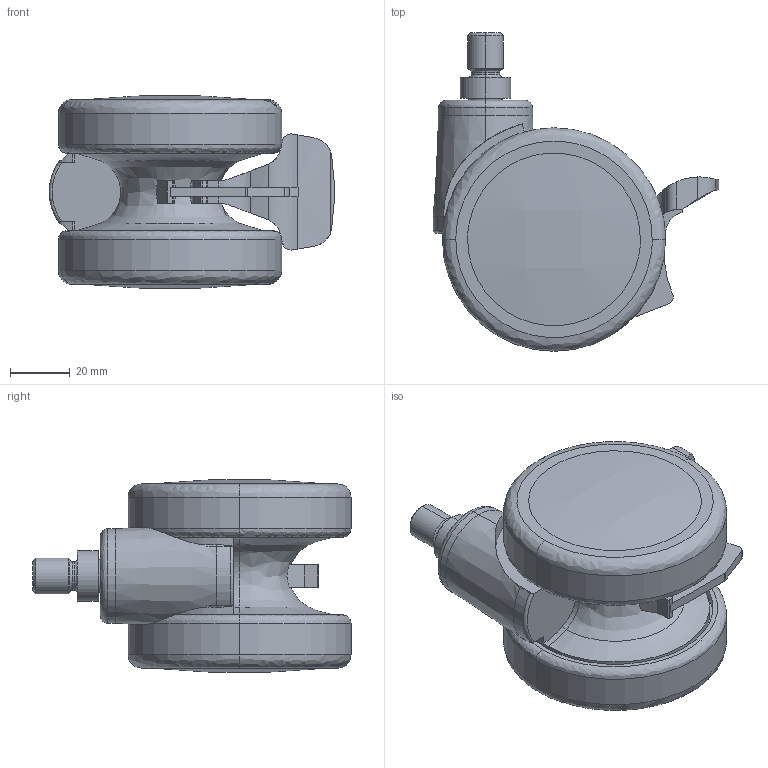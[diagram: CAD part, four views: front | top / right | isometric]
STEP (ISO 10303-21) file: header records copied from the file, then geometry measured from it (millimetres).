
FILE_DESCRIPTION (( 'STEP AP203' ), '1' );
FILE_NAME ('TCAG 75 BAG Caster wit multistop brake plastic grey (01-06-2021).STEP', '2021-06-01T06:14:09', ( '' ), ( '' ), 'SwSTEP 2.0', 'SolidWorks 2020', '' );
FILE_SCHEMA (( 'CONFIG_CONTROL_DESIGN' ));
Length unit declared in the file: millimetre
Products named in the file (1): TCAG 75 BAG Caster wit multistop brake plastic grey (01-06-2021)
Bounding box: 95.98 x 107 x 64.63 mm (x, y, z)
Volume: 239022.9 mm3; surface area: 36361.6 mm2
Topology: 1 solids, 1 shells, 168 faces, 447 edges, 291 vertices
Faces by surface type: cylinder 78, plane 50, bspline 30, cone 10
Entity records: 7142 total; most frequent: CARTESIAN_POINT 3150, ORIENTED_EDGE 894, DIRECTION 750, EDGE_CURVE 447, AXIS2_PLACEMENT_3D 299, VERTEX_POINT 291, EDGE_LOOP 178, ADVANCED_FACE 168
